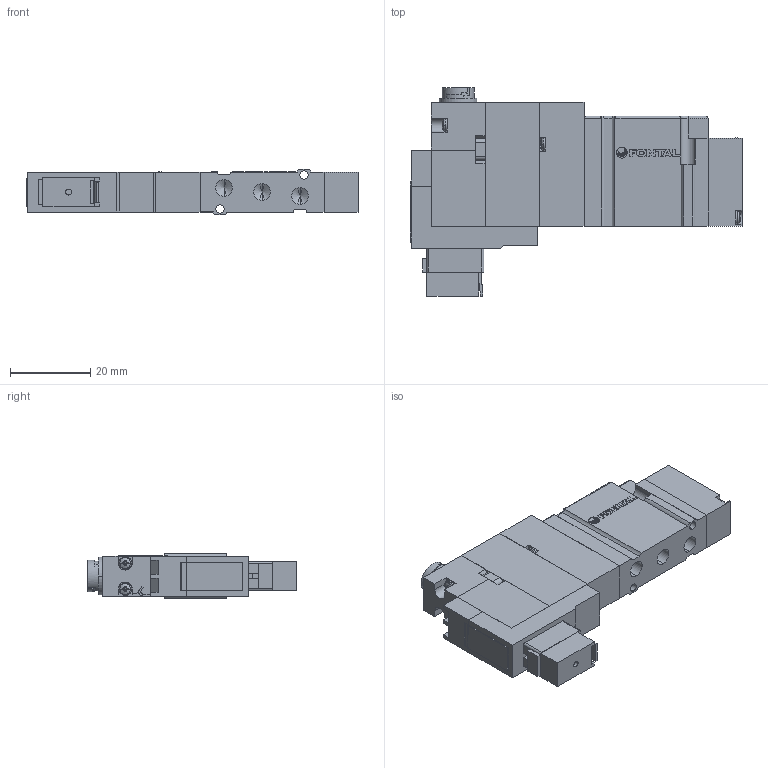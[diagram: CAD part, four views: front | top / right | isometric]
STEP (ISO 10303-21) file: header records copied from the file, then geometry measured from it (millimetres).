
FILE_DESCRIPTION (( 'STEP AP203' ), '1' );
FILE_NAME ('A05FS25#-#Q-#-E.STEP', '2016-02-04T01:55:14', ( 'Sam Lin' ), ( '' ), 'SwSTEP 2.0', 'SolidWorks 2013', '' );
FILE_SCHEMA (( 'CONFIG_CONTROL_DESIGN' ));
Length unit declared in the file: metre
Products named in the file (15): A05RS25-6; A05RS25-1; DC24-A05F-1; ISO 7045 - M1.6 x 10; A05RS25-5; DC24-A05F-2; mark-ADEX-A05RS; DC24-A05F-3; A05FS25-2; DC24-A05F-4; A05FS25-3; A05FS25-5; A05RS25-3; A05FS25#-#Q-#-E; A05RS25-4
Assembly tree (20 placements, depth 2):
  A05FS25#-#Q-#-E
    A05RS25-1
    ISO 7045 - M1.6 x 10  x6
    mark-ADEX-A05RS
    A05FS25-2
    A05FS25-3
    A05RS25-3
    A05RS25-4
    A05RS25-5
    A05RS25-6  x2
    DC24-A05F-1
    DC24-A05F-2
    DC24-A05F-3
    DC24-A05F-4
    A05FS25-5
Bounding box: 83 x 52.1 x 11.4 mm (x, y, z)
Volume: 24195 mm3; surface area: 14743.7 mm2
Topology: 28 solids, 28 shells, 698 faces, 1769 edges, 1119 vertices
Faces by surface type: plane 444, cylinder 134, cone 68, bspline 52
Entity records: 16653 total; most frequent: CARTESIAN_POINT 3324, ORIENTED_EDGE 2418, DIRECTION 2345, EDGE_CURVE 1209, VECTOR 889, LINE 889, VERTEX_POINT 791, AXIS2_PLACEMENT_3D 728
